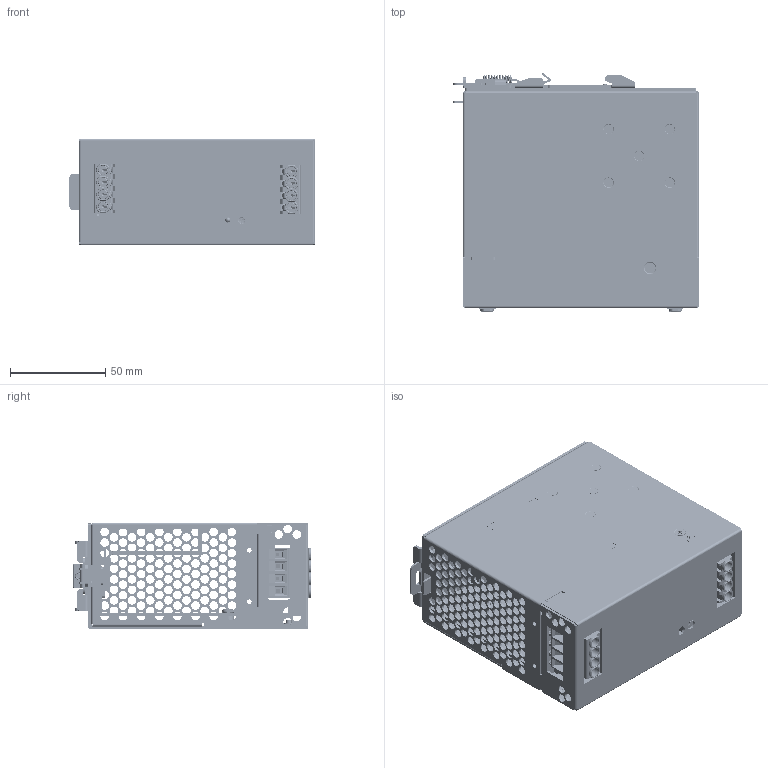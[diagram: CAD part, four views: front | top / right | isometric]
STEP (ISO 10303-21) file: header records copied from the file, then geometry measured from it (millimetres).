
FILE_DESCRIPTION((''),'2;1');
FILE_NAME('20260212_DRL-XXV240W3EN_EMPTY','2026-02-12T20:36:00',('LEO.JY.WU'),(''),'CREO PARAMETRIC BY PTC INC, 2024014','CREO PARAMETRIC BY PTC INC, 2024014','');
FILE_SCHEMA(('AUTOMOTIVE_DESIGN { 1 0 10303 214 1 1 1 1 }'));
Products named in the file (1): 20260212_DRL-XXV240W3EN_EMPTY
Bounding box: 128.8 x 125.14 x 56 mm (x, y, z)
Volume: 127743.5 mm3; surface area: 181021 mm2
Topology: 2 solids, 4 shells, 5826 faces, 16418 edges, 10501 vertices
Faces by surface type: plane 3257, cylinder 2105, cone 156, bspline 125, torus 104, sphere 40, extrusion 39
Entity records: 236583 total; most frequent: CARTESIAN_POINT 83080, ORIENTED_EDGE 32680, DIRECTION 31006, EDGE_CURVE 16340, VECTOR 10872, LINE 10833, VERTEX_POINT 10490, AXIS2_PLACEMENT_3D 10067
